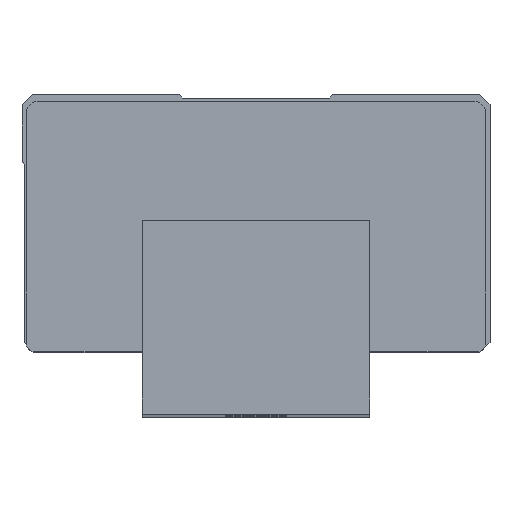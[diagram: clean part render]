
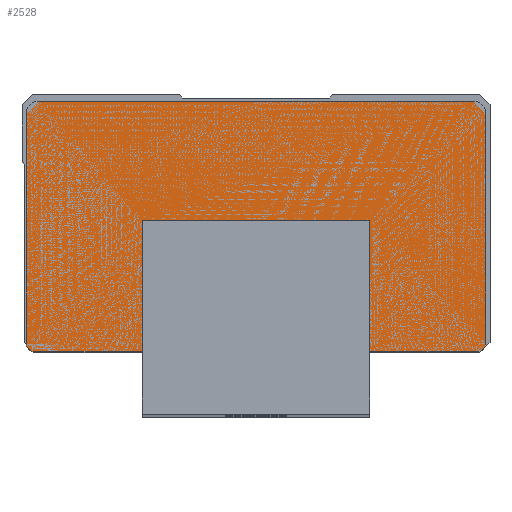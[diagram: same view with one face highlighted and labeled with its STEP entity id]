
A CAD part, top view. The second image highlights one B-rep face of the part: STEP entity #2528.
In plain terms, the highlighted planar face has unit normal (0, 0, 1).
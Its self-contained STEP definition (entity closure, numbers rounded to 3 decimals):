
#2114=CARTESIAN_POINT('',(-16.1,9.5,170.2));
#2115=VERTEX_POINT('',#2114);
#2116=CARTESIAN_POINT('',(-17.4,10.8,170.2));
#2117=VERTEX_POINT('',#2116);
#2118=CARTESIAN_POINT('',(-16.1,10.8,170.2));
#2119=DIRECTION('',(0.0,0.0,-1.0));
#2120=DIRECTION('',(1.0,0.0,0.0));
#2121=AXIS2_PLACEMENT_3D('',#2118,#2119,#2120);
#2122=CIRCLE('',#2121,1.3);
#2123=EDGE_CURVE('',#2115,#2117,#2122,.T.);
#2156=CARTESIAN_POINT('',(-17.4,45.,170.2));
#2157=VERTEX_POINT('',#2156);
#2158=CARTESIAN_POINT('',(-17.4,10.8,170.2));
#2159=DIRECTION('',(0.0,1.0,0.0));
#2160=VECTOR('',#2159,1.0);
#2161=LINE('',#2158,#2160);
#2162=EDGE_CURVE('',#2117,#2157,#2161,.T.);
#2187=CARTESIAN_POINT('',(-15.4,47.,170.2));
#2188=VERTEX_POINT('',#2187);
#2189=CARTESIAN_POINT('',(-15.4,45.,170.2));
#2190=DIRECTION('',(0.0,0.0,-1.0));
#2191=DIRECTION('',(1.0,0.0,0.0));
#2192=AXIS2_PLACEMENT_3D('',#2189,#2190,#2191);
#2193=CIRCLE('',#2192,2.0);
#2194=EDGE_CURVE('',#2157,#2188,#2193,.T.);
#2220=CARTESIAN_POINT('',(49.4,47.,170.2));
#2221=VERTEX_POINT('',#2220);
#2222=CARTESIAN_POINT('',(-15.4,47.,170.2));
#2223=DIRECTION('',(1.0,0.0,0.0));
#2224=VECTOR('',#2223,1.0);
#2225=LINE('',#2222,#2224);
#2226=EDGE_CURVE('',#2188,#2221,#2225,.T.);
#2251=CARTESIAN_POINT('',(51.4,45.,170.2));
#2252=VERTEX_POINT('',#2251);
#2253=CARTESIAN_POINT('',(49.4,45.,170.2));
#2254=DIRECTION('',(0.0,0.0,-1.0));
#2255=DIRECTION('',(1.0,0.0,0.0));
#2256=AXIS2_PLACEMENT_3D('',#2253,#2254,#2255);
#2257=CIRCLE('',#2256,2.0);
#2258=EDGE_CURVE('',#2221,#2252,#2257,.T.);
#2284=CARTESIAN_POINT('',(51.4,10.8,170.2));
#2285=VERTEX_POINT('',#2284);
#2286=CARTESIAN_POINT('',(51.4,45.,170.2));
#2287=DIRECTION('',(0.0,-1.0,0.0));
#2288=VECTOR('',#2287,1.0);
#2289=LINE('',#2286,#2288);
#2290=EDGE_CURVE('',#2252,#2285,#2289,.T.);
#2315=CARTESIAN_POINT('',(50.1,9.5,170.2));
#2316=VERTEX_POINT('',#2315);
#2317=CARTESIAN_POINT('',(50.1,10.8,170.2));
#2318=DIRECTION('',(0.0,0.0,-1.0));
#2319=DIRECTION('',(1.0,0.0,0.0));
#2320=AXIS2_PLACEMENT_3D('',#2317,#2318,#2319);
#2321=CIRCLE('',#2320,1.3);
#2322=EDGE_CURVE('',#2285,#2316,#2321,.T.);
#2348=CARTESIAN_POINT('',(34.,9.5,170.2));
#2349=VERTEX_POINT('',#2348);
#2350=CARTESIAN_POINT('',(50.1,9.5,170.2));
#2351=DIRECTION('',(-1.0,0.0,0.0));
#2352=VECTOR('',#2351,1.0);
#2353=LINE('',#2350,#2352);
#2354=EDGE_CURVE('',#2316,#2349,#2353,.T.);
#2379=CARTESIAN_POINT('',(34.,28.9,170.2));
#2380=VERTEX_POINT('',#2379);
#2381=CARTESIAN_POINT('',(34.,9.5,170.2));
#2382=DIRECTION('',(0.0,1.0,0.0));
#2383=VECTOR('',#2382,1.0);
#2384=LINE('',#2381,#2383);
#2385=EDGE_CURVE('',#2349,#2380,#2384,.T.);
#2410=CARTESIAN_POINT('',(0.,28.9,170.2));
#2411=VERTEX_POINT('',#2410);
#2412=CARTESIAN_POINT('',(34.,28.9,170.2));
#2413=DIRECTION('',(-1.0,0.0,0.0));
#2414=VECTOR('',#2413,1.0);
#2415=LINE('',#2412,#2414);
#2416=EDGE_CURVE('',#2380,#2411,#2415,.T.);
#2441=CARTESIAN_POINT('',(0.,9.5,170.2));
#2442=VERTEX_POINT('',#2441);
#2443=CARTESIAN_POINT('',(0.,28.9,170.2));
#2444=DIRECTION('',(0.0,-1.0,0.0));
#2445=VECTOR('',#2444,1.0);
#2446=LINE('',#2443,#2445);
#2447=EDGE_CURVE('',#2411,#2442,#2446,.T.);
#2472=CARTESIAN_POINT('',(0.,9.5,170.2));
#2473=DIRECTION('',(-1.0,0.0,0.0));
#2474=VECTOR('',#2473,1.0);
#2475=LINE('',#2472,#2474);
#2476=EDGE_CURVE('',#2442,#2115,#2475,.T.);
#2509=CARTESIAN_POINT('',(-16.1,10.8,170.2));
#2510=DIRECTION('',(0.0,0.0,-1.0));
#2511=DIRECTION('',(-1.0,0.0,0.0));
#2512=AXIS2_PLACEMENT_3D('',#2509,#2510,#2511);
#2513=PLANE('',#2512);
#2514=ORIENTED_EDGE('',*,*,#2123,.F.);
#2515=ORIENTED_EDGE('',*,*,#2476,.F.);
#2516=ORIENTED_EDGE('',*,*,#2447,.F.);
#2517=ORIENTED_EDGE('',*,*,#2416,.F.);
#2518=ORIENTED_EDGE('',*,*,#2385,.F.);
#2519=ORIENTED_EDGE('',*,*,#2354,.F.);
#2520=ORIENTED_EDGE('',*,*,#2322,.F.);
#2521=ORIENTED_EDGE('',*,*,#2290,.F.);
#2522=ORIENTED_EDGE('',*,*,#2258,.F.);
#2523=ORIENTED_EDGE('',*,*,#2226,.F.);
#2524=ORIENTED_EDGE('',*,*,#2194,.F.);
#2525=ORIENTED_EDGE('',*,*,#2162,.F.);
#2526=EDGE_LOOP('',(#2514,#2515,#2516,#2517,#2518,#2519,#2520,#2521,#2522,#2523,#2524,#2525));
#2527=FACE_OUTER_BOUND('',#2526,.T.);
#2528=ADVANCED_FACE('',(#2527),#2513,.F.);
